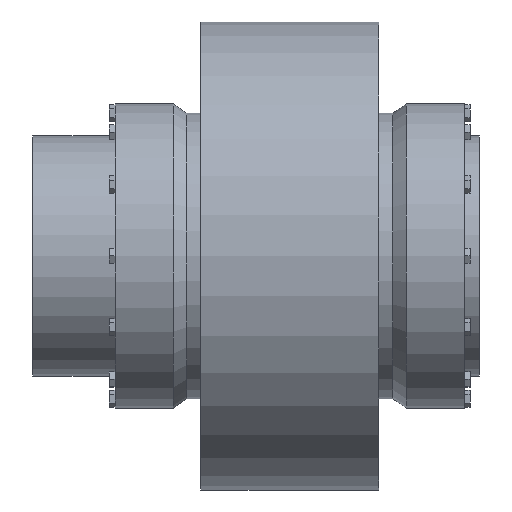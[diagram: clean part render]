
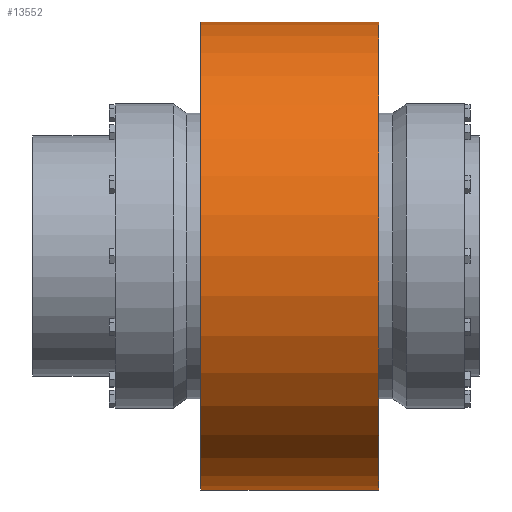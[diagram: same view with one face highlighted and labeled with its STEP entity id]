
A CAD part, top view. The second image highlights one B-rep face of the part: STEP entity #13552.
In plain terms, the highlighted cylindrical face has radius 250 mm (diameter 500 mm), a partial arc.
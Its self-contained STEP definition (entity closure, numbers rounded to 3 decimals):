
#13304=CARTESIAN_POINT('',(95.,0.,0.));
#13305=DIRECTION('',(1.,0.,0.));
#13306=DIRECTION('',(0.,1.,0.));
#13307=AXIS2_PLACEMENT_3D('',#13304,#13305,#13306);
#13309=DIRECTION('',(-1.,0.,0.));
#13310=VECTOR('',#13309,190.);
#13311=CARTESIAN_POINT('',(95.,250.,0.));
#13312=LINE('',#13311,#13310);
#13313=DIRECTION('',(-1.,0.,0.));
#13314=VECTOR('',#13313,190.);
#13315=CARTESIAN_POINT('',(95.,-250.,0.));
#13316=LINE('',#13315,#13314);
#13327=CARTESIAN_POINT('',(-95.,0.,0.));
#13328=DIRECTION('',(1.,0.,0.));
#13329=DIRECTION('',(0.,1.,0.));
#13330=AXIS2_PLACEMENT_3D('',#13327,#13328,#13329);
#13384=CARTESIAN_POINT('',(95.,250.,0.));
#13385=CARTESIAN_POINT('',(-95.,250.,0.));
#13386=VERTEX_POINT('',#13384);
#13387=VERTEX_POINT('',#13385);
#13392=CARTESIAN_POINT('',(95.,-250.,0.));
#13393=CARTESIAN_POINT('',(-95.,-250.,0.));
#13394=VERTEX_POINT('',#13392);
#13395=VERTEX_POINT('',#13393);
#13538=CARTESIAN_POINT('',(-104.5,0.,0.));
#13539=DIRECTION('',(1.,0.,0.));
#13540=DIRECTION('',(0.,-1.,0.));
#13541=AXIS2_PLACEMENT_3D('',#13538,#13539,#13540);
#13542=CYLINDRICAL_SURFACE('',#13541,250.);
#13544=ORIENTED_EDGE('',*,*,#13543,.F.);
#13545=ORIENTED_EDGE('',*,*,#13527,.T.);
#13547=ORIENTED_EDGE('',*,*,#13546,.T.);
#13549=ORIENTED_EDGE('',*,*,#13548,.F.);
#13550=EDGE_LOOP('',(#13544,#13545,#13547,#13549));
#13551=FACE_OUTER_BOUND('',#13550,.F.);
#13552=ADVANCED_FACE('',(#13551),#13542,.T.);
#13308=CIRCLE('',#13307,250.);
#13331=CIRCLE('',#13330,250.);
#13527=EDGE_CURVE('',#13386,#13394,#13308,.T.);
#13543=EDGE_CURVE('',#13386,#13387,#13312,.T.);
#13546=EDGE_CURVE('',#13394,#13395,#13316,.T.);
#13548=EDGE_CURVE('',#13387,#13395,#13331,.T.);
